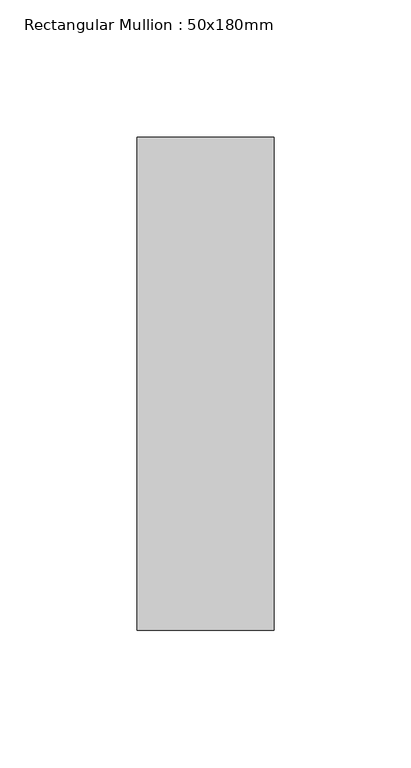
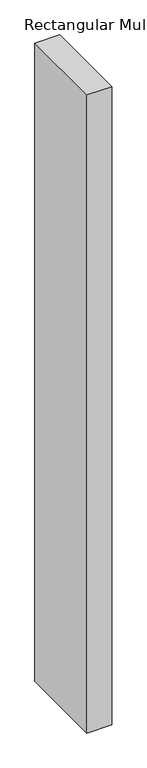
"""IFC4 building model written with IfcOpenShell, lengths in millimetres: member geometry, Rectangular Mullion : 50x180mm."""

from ifc_helpers import new_model, si_unit, frame, origin, place, context, project, spatial, polyline, outline, extrude, source, transform, mapped, element, save


def rectangular_mullion_50x180mm_f4f83200(model_context):
    return source(origin(), model_context, "Body", "SweptSolid", [
        extrude(outline(polyline([(25.0, 90.0), (25.0, -90.0), (-25.0, -90.0), (-25.0, 90.0), (25.0, 90.0)])), frame((0.0, 0.0, -1350.1153516), z_axis=(0.0, 0.0, 1.0), x_axis=(1.0, 0.0, 0.0)), (0.0, 0.0, 1.0), 1350.1153516),
    ])


if __name__ == "__main__":
    model = new_model("IFC4")
    model_context = context("Model", 3, world=origin())
    ifc_project = project(units=[si_unit("LENGTHUNIT", "METRE", prefix="MILLI")], contexts=[model_context])
    site = spatial("IfcSite", under=ifc_project)
    building = spatial("IfcBuilding", under=site)
    placement = place(None, origin())
    rectangular_mullion_50x180mm_shape = rectangular_mullion_50x180mm_f4f83200(model_context)
    element("IfcMember", 1, ObjectType="Rectangular Mullion : 50x180mm", at=placement, inside=building, context=model_context, shape_type="MappedRepresentation", body=[
        mapped(rectangular_mullion_50x180mm_shape, transform((0.0, 0.0, 0.0), x_axis=(1.0, 0.0, 0.0), y_axis=(0.0, 1.0, 0.0), z_axis=(0.0, 0.0, 1.0))),
    ])
    save(model, "model.ifc")
